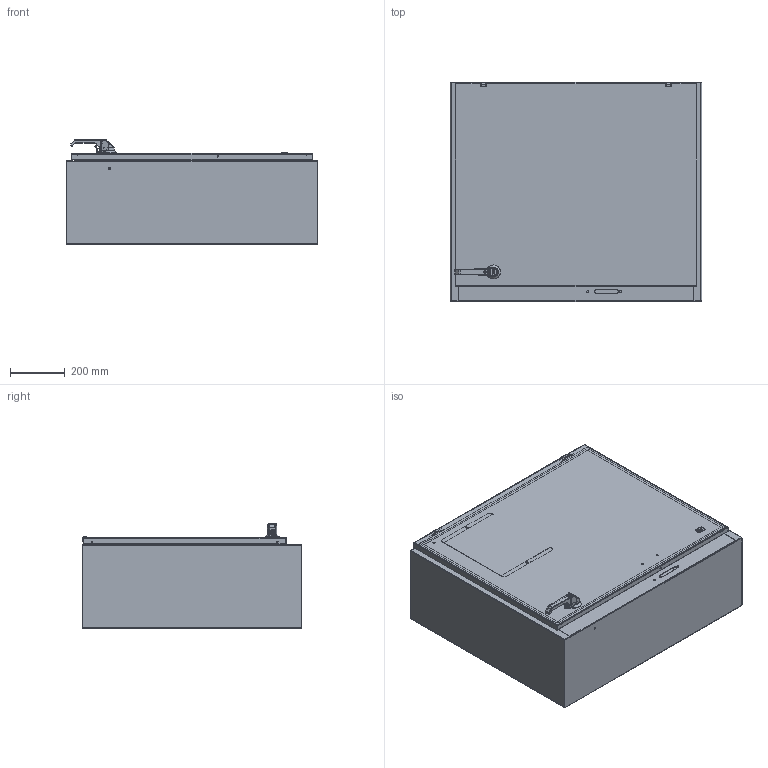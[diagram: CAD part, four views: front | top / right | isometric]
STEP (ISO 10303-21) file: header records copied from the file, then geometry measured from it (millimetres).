
FILE_DESCRIPTION((''),'2;1');
FILE_NAME('MODEL-314_ASM','2023-08-24T14:20:55',('joshi'),('SAGINAW CONTROL & ENGINEERING'),'CREO PARAMETRIC BY PTC INC, 2021284','CREO PARAMETRIC BY PTC INC, 2021284','');
FILE_SCHEMA(('AUTOMOTIVE_DESIGN { 1 0 10303 214 1 1 1 1 }'));
Length unit declared in the file: inch
Products named in the file (48): MODEL-314-BDY; MODEL-314-LS; MODEL-314-RS; MODEL-314-DR; 100837; 100882; 111267; 100953_HANDLE; 100953_HANDLE_INSERT; 100953_SHAFT_CAM; 100953_ADAPTER_CAM; 100953_NUT_CAM; 100953_BASE; 100953_O-RING; 100953_WASHER_SEALING; 100953_NUT_MOUNTING_LARGE; 100953_NUT_MOUNTING_SMALL; 100953_SCREW_SMALL; 100953_INSERT; 100953_PADLOCK_CATCH; 100953_ASM; 128142; 100030; 128142_ASM; MODEL-314-ROD-UPR; 128146; 128145; 128144; 102482; MODEL-314-ROD-UPR_ASM; 128143; 112504; MODEL-314-GSKT; 126391; 126391_ASM; 126393; 102483; 101226; 101376; 102140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
Assembly tree (78 placements, depth 4):
  MODEL-314_ASM
    MODEL-314-BDY
    MODEL-314-LS
    MODEL-314-RS
    MODEL-314-DOOR-ASSY_ASM
      MODEL-314-DR
      100837  x6
      100882  x3
      111267
      100953_ASM
        100953_HANDLE
        100953_HANDLE_INSERT
        100953_SHAFT_CAM
        100953_ADAPTER_CAM
        100953_NUT_CAM
        100953_BASE
        100953_O-RING
        100953_WASHER_SEALING
        100953_NUT_MOUNTING_LARGE
        100953_NUT_MOUNTING_SMALL
        100953_SCREW_SMALL
        100953_INSERT
        100953_PADLOCK_CATCH
      128142_ASM
        128142
        100030  x2
      MODEL-314-ROD-UPR_ASM
        MODEL-314-ROD-UPR
        128146
        128145
        128144
        102482  x2
      128143
      112504
      MODEL-314-GSKT
      126391_ASM  x2
        126391
      126393  x2
      102483  x6
      101226  x2
      101376  x2
      102140  x2
    100837  x2
    103357
    101653  x6
    122192
    SUBPANEL-SUBASSEMBLY_ASM
      SUBPANEL
      100904  x6
Bounding box: 914.4 x 796.92 x 381.93 mm (x, y, z)
Volume: 7764130 mm3; surface area: 7045048.5 mm2
Topology: 72 solids, 72 shells, 5239 faces, 13296 edges, 8215 vertices
Faces by surface type: plane 1818, cylinder 1424, bspline 890, cone 533, torus 408, sphere 166
Entity records: 200439 total; most frequent: CARTESIAN_POINT 70970, ORIENTED_EDGE 19784, DIRECTION 18115, PRESENTATION_STYLE_ASSIGNMENT 10078, STYLED_ITEM 9932, CURVE_STYLE 9892, EDGE_CURVE 9892, AXIS2_PLACEMENT_3D 6791
